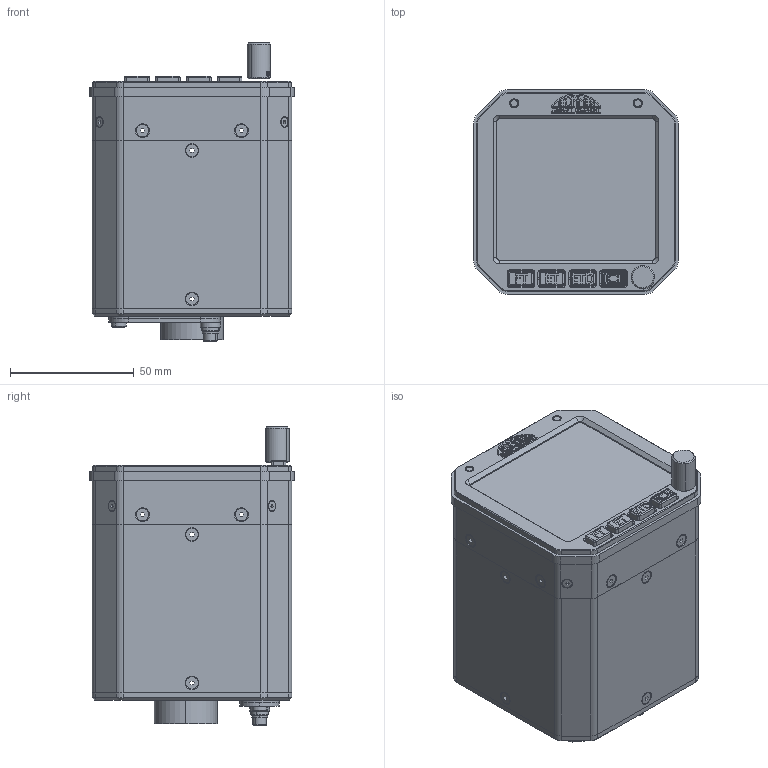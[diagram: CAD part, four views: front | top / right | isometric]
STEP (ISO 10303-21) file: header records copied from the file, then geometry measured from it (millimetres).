
FILE_DESCRIPTION (( 'STEP AP214' ), '1' );
FILE_NAME ('ST3_part.STEP', '2022-09-08T10:10:56', ( '' ), ( '' ), 'SwSTEP 2.0', 'SolidWorks 2019', '' );
FILE_SCHEMA (( 'AUTOMOTIVE_DESIGN' ));
Length unit declared in the file: millimetre
Products named in the file (1): ST3_part
Bounding box: 82.8 x 82.8 x 120.55 mm (x, y, z)
Surface area: 48336.4 mm2 (no closed solid volume)
Topology: 0 solids, 59 shells, 1035 faces, 4079 edges, 2994 vertices
Faces by surface type: plane 509, cylinder 254, cone 116, bspline 84, sphere 52, torus 20
Entity records: 62557 total; most frequent: CARTESIAN_POINT 19680, DIRECTION 5971, ORIENTED_EDGE 5832, EDGE_CURVE 3965, VERTEX_POINT 2942, LINE 2423, VECTOR 2423, AXIS2_PLACEMENT_3D 1774
